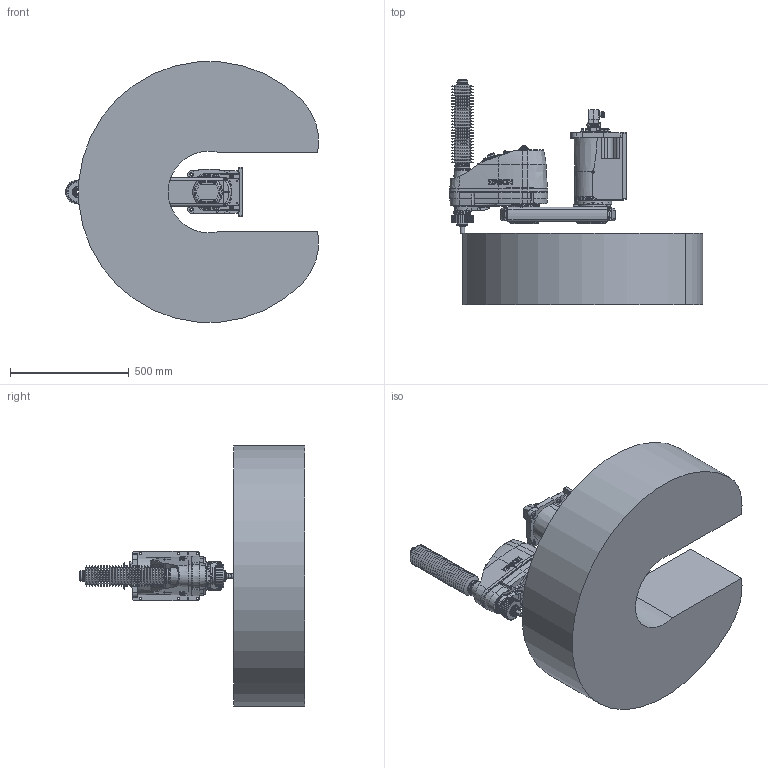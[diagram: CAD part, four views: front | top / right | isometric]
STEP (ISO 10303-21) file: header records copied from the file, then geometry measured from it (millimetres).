
FILE_DESCRIPTION( ( 'STEP AP214' ), '1' );
FILE_NAME( 'C:/Users/9607552/Desktop/GX8-B553CW_langle.stp', '2023-07-07T02:41:50', ( '' ), ( '' ), ' ', 'PARTsolutions', ' ' );
FILE_SCHEMA( ( 'AUTOMOTIVE_DESIGN { 1 0 10303 214 1 1 1 1 }' ) );
Length unit declared in the file: millimetre
Products named in the file (11): GX8-B553CWA-W; _B552CW_BASE; _B552CR; _B552CR_1; _B552CR_2; _B452C_J2; _B453CZA; _2-B-long; _2-B-short; _Angle-B; _GX8-18-1-B_WS
Assembly tree (12 placements, depth 2):
  GX8-B553CWA-W
    _B552CW_BASE
    _B552CR
    _B552CR_1  x2
    _B552CR_2  x2
    _B452C_J2
    _B453CZA
    _2-B-long
    _2-B-short
    _Angle-B
    _GX8-18-1-B_WS
Bounding box: 1066.99 x 950.5 x 1095.81 mm (x, y, z)
Volume: 238980816 mm3; surface area: 4332113.9 mm2
Topology: 12 solids, 16 shells, 3390 faces, 8154 edges, 5257 vertices
Faces by surface type: plane 1621, cylinder 1124, cone 444, torus 159, bspline 37, sphere 5
Full cylindrical faces by diameter (mm): 1 x48, 1.18 x55, 2.261 x4, 2.459 x12, 3 x32, 3.242 x18, 3.3 x4, 3.9 x4, 4.2 x8, 4.5 x12, 4.8 x5, 5.34 x4, 5.5 x17, 6 x6, 6.2 x4, 6.647 x4, 6.8 x2, 7 x42, 8 x5, 8.5 x4, 9 x24, 10 x24, 11 x4, 11.2 x5, 11.5 x1, 12 x5, 12.2 x1, 12.25 x1, 13 x7, 13.2 x12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
Entity records: 119765 total; most frequent: CARTESIAN_POINT 21995, DIRECTION 15033, ORIENTED_EDGE 13366, EDGE_CURVE 6683, AXIS2_PLACEMENT_3D 5887, VERTEX_POINT 4869, EDGE_LOOP 4652, FACE_OUTER_BOUND 3841
